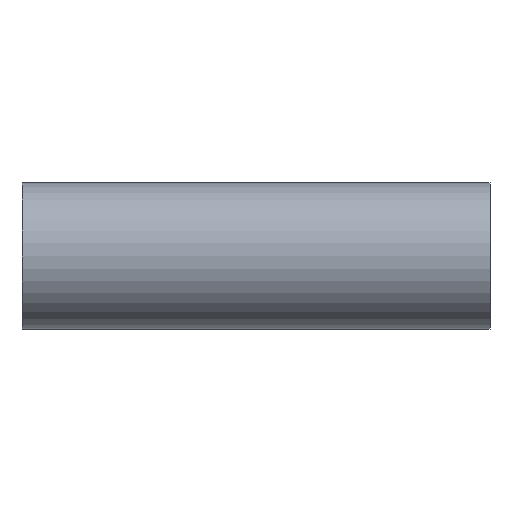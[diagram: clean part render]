
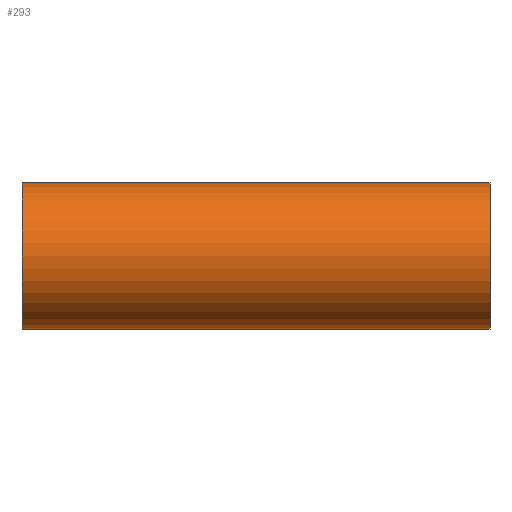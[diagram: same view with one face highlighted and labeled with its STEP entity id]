
A CAD part, front view. The second image highlights one B-rep face of the part: STEP entity #293.
In plain terms, the highlighted cylindrical face has radius 50.8 mm (diameter 101.6 mm), a partial arc.
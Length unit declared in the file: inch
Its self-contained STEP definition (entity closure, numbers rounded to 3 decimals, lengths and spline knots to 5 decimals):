
#3 = EDGE_CURVE ( 'NONE', #140, #142, #42, .T. ) ;
#8 = DIRECTION ( 'NONE',  ( 1., 0., 0. ) ) ;
#13 = DIRECTION ( 'NONE',  ( 1., 0., 0. ) ) ;
#37 = VECTOR ( 'NONE', #403, 39.37008 ) ;
#39 = CARTESIAN_POINT ( 'NONE',  ( -2.062, 0., 0. ) ) ;
#42 = LINE ( 'NONE', #438, #37 ) ;
#66 = CARTESIAN_POINT ( 'NONE',  ( 10.75, 0., 2. ) ) ;
#70 = ORIENTED_EDGE ( 'NONE', *, *, #468, .F. ) ;
#95 = CARTESIAN_POINT ( 'NONE',  ( -2.062, 0., 0. ) ) ;
#98 = DIRECTION ( 'NONE',  ( 1., 0., 0. ) ) ;
#106 = EDGE_CURVE ( 'NONE', #336, #456, #192, .T. ) ;
#107 = CARTESIAN_POINT ( 'NONE',  ( 0., 0., 2. ) ) ;
#109 = CARTESIAN_POINT ( 'NONE',  ( -2.062, 0., 2. ) ) ;
#140 = VERTEX_POINT ( 'NONE', #449 ) ;
#142 = VERTEX_POINT ( 'NONE', #148 ) ;
#143 = DIRECTION ( 'NONE',  ( 0., 0., -1. ) ) ;
#148 = CARTESIAN_POINT ( 'NONE',  ( 0., 0., -2. ) ) ;
#149 = CYLINDRICAL_SURFACE ( 'NONE', #323, 2. ) ;
#161 = EDGE_CURVE ( 'NONE', #336, #140, #244, .T. ) ;
#166 = VECTOR ( 'NONE', #13, 39.37008 ) ;
#170 = ORIENTED_EDGE ( 'NONE', *, *, #161, .T. ) ;
#172 = CARTESIAN_POINT ( 'NONE',  ( 10.75, 0., 0. ) ) ;
#173 = DIRECTION ( 'NONE',  ( 1., 0., 0. ) ) ;
#181 = DIRECTION ( 'NONE',  ( 1., 0., 0. ) ) ;
#192 = LINE ( 'NONE', #288, #166 ) ;
#193 = VERTEX_POINT ( 'NONE', #469 ) ;
#197 = ORIENTED_EDGE ( 'NONE', *, *, #338, .F. ) ;
#206 = DIRECTION ( 'NONE',  ( 0., 0., -1. ) ) ;
#225 = LINE ( 'NONE', #109, #231 ) ;
#228 = ORIENTED_EDGE ( 'NONE', *, *, #3, .T. ) ;
#231 = VECTOR ( 'NONE', #181, 39.37008 ) ;
#244 = CIRCLE ( 'NONE', #435, 2. ) ;
#262 = EDGE_CURVE ( 'NONE', #142, #193, #428, .T. ) ;
#279 = CARTESIAN_POINT ( 'NONE',  ( -2.062, 0., 2. ) ) ;
#288 = CARTESIAN_POINT ( 'NONE',  ( -2.062, 0., 2. ) ) ;
#293 = ADVANCED_FACE ( 'NONE', ( #397 ), #149, .T. ) ;
#297 = ORIENTED_EDGE ( 'NONE', *, *, #106, .F. ) ;
#302 = VECTOR ( 'NONE', #173, 39.37008 ) ;
#314 = ORIENTED_EDGE ( 'NONE', *, *, #262, .T. ) ;
#323 = AXIS2_PLACEMENT_3D ( 'NONE', #95, #98, #143 ) ;
#336 = VERTEX_POINT ( 'NONE', #279 ) ;
#338 = EDGE_CURVE ( 'NONE', #457, #193, #341, .T. ) ;
#341 = CIRCLE ( 'NONE', #423, 2. ) ;
#375 = DIRECTION ( 'NONE',  ( 0., 0., -1. ) ) ;
#396 = CARTESIAN_POINT ( 'NONE',  ( -2.062, 0., -2. ) ) ;
#397 = FACE_OUTER_BOUND ( 'NONE', #483, .T. ) ;
#403 = DIRECTION ( 'NONE',  ( 1., 0., 0. ) ) ;
#423 = AXIS2_PLACEMENT_3D ( 'NONE', #172, #439, #206 ) ;
#428 = LINE ( 'NONE', #396, #302 ) ;
#435 = AXIS2_PLACEMENT_3D ( 'NONE', #39, #8, #375 ) ;
#438 = CARTESIAN_POINT ( 'NONE',  ( -2.062, 0., -2. ) ) ;
#439 = DIRECTION ( 'NONE',  ( 1., 0., 0. ) ) ;
#449 = CARTESIAN_POINT ( 'NONE',  ( -2.062, 0., -2. ) ) ;
#456 = VERTEX_POINT ( 'NONE', #107 ) ;
#457 = VERTEX_POINT ( 'NONE', #66 ) ;
#468 = EDGE_CURVE ( 'NONE', #456, #457, #225, .T. ) ;
#469 = CARTESIAN_POINT ( 'NONE',  ( 10.75, 0., -2. ) ) ;
#483 = EDGE_LOOP ( 'NONE', ( #297, #170, #228, #314, #197, #70 ) ) ;
